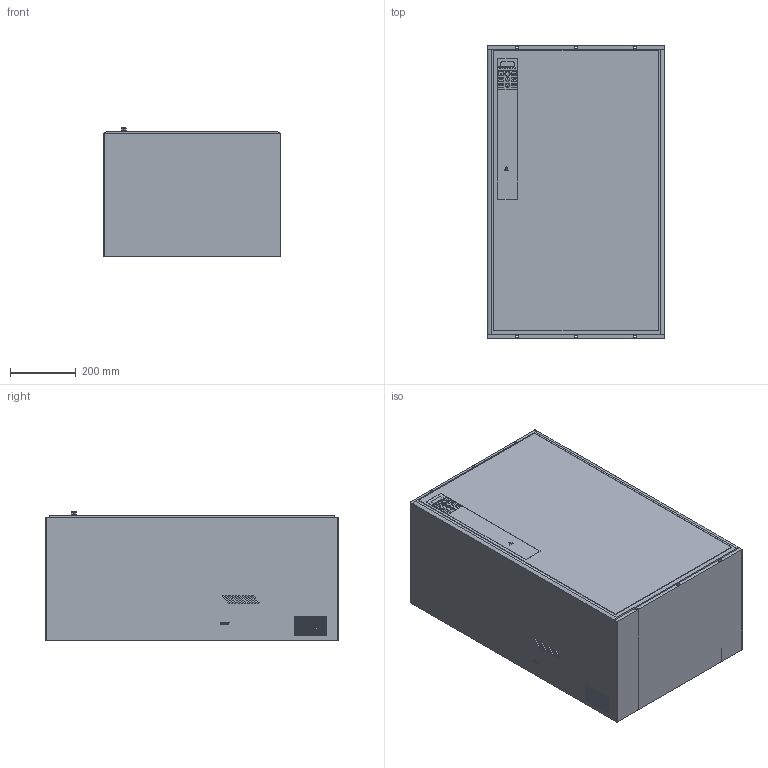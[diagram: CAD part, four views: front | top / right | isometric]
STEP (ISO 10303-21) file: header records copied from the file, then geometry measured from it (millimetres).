
FILE_DESCRIPTION(/* description */ (''),/* implementation_level */ '2;1');
FILE_NAME(/* name */ 'D:\2 ДОГОВОР ЧИНТ\Выслать\CHINT 10.03.2019\NVF2G\NVF2G-160 TS4(185 PS4) NVF2G-185 TS4(200 PS4) NVF2G-200 TS4(220 PS4).stp',/* time_stamp */ '2019-03-11T19:01:47+03:00',/* author */ ('RSagdiev'),/* organization */ (''),/* preprocessor_version */ 'ST-DEVELOPER v16.5',/* originating_system */ 'Autodesk Inventor 2017',/* authorisation */ '');
FILE_SCHEMA (('AUTOMOTIVE_DESIGN { 1 0 10303 214 3 1 1 }'));
Length unit declared in the file: millimetre
Products named in the file (1): NVF2G-160 TS4(185 PS4) NVF2G-185 TS4(200 PS4) NVF2G-200 TS4(220 PS4)
Bounding box: 540.1 x 892 x 390 mm (x, y, z)
Volume: 182889584.8 mm3; surface area: 3973839.5 mm2
Topology: 15 solids, 15 shells, 1637 faces, 3840 edges, 2560 vertices
Faces by surface type: plane 1036, cylinder 318, bspline 193, cone 90
Full cylindrical faces by diameter (mm): 2 x7, 4 x240, 10 x6, 13 x3
Entity records: 47152 total; most frequent: CARTESIAN_POINT 11316, ORIENTED_EDGE 7168, DIRECTION 6724, EDGE_CURVE 3584, VERTEX_POINT 2560, AXIS2_PLACEMENT_3D 2261, EDGE_LOOP 2232, LINE 2202
